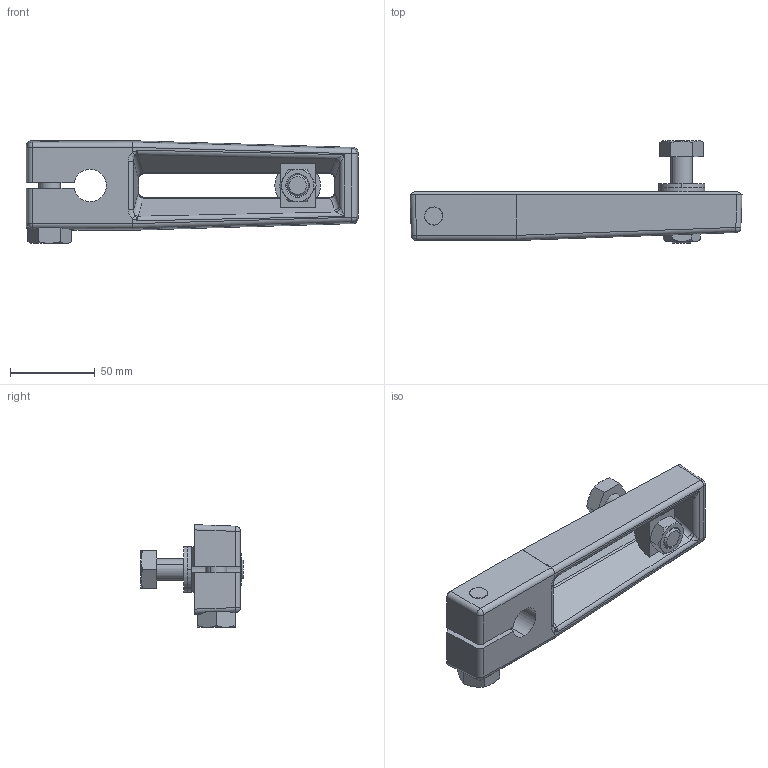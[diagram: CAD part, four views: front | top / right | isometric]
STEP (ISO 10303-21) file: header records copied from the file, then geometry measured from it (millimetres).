
FILE_DESCRIPTION (( 'STEP AP214' ), '1' );
FILE_NAME ('CrankArm_BECK_11^150.STEP', '2025-02-27T17:02:26', ( '' ), ( '' ), 'SwSTEP 2.0', 'SolidWorks 2022', '' );
FILE_SCHEMA (( 'AUTOMOTIVE_DESIGN' ));
Length unit declared in the file: inch
Products named in the file (6): 30-0306-56_30-0306-56; CrankArm_BECK_11^150; 30-0309-11_30-0309-11; 10-3491-02_Draft; 11-8060-02; 30-0313-03
Assembly tree (7 placements, depth 2):
  CrankArm_BECK_11^150
    10-3491-02_Draft
    11-8060-02
    30-0306-56_30-0306-56  x2
    30-0309-11_30-0309-11
    30-0313-03  x2
Bounding box: 195.39 x 60.05 x 60.34 mm (x, y, z)
Volume: 193911.5 mm3; surface area: 49156.4 mm2
Topology: 7 solids, 7 shells, 185 faces, 430 edges, 256 vertices
Faces by surface type: cylinder 62, plane 61, cone 36, bspline 22, sphere 4
Entity records: 6148 total; most frequent: CARTESIAN_POINT 2202, ORIENTED_EDGE 748, DIRECTION 661, EDGE_CURVE 374, AXIS2_PLACEMENT_3D 255, VERTEX_POINT 224, EDGE_LOOP 172, FACE_OUTER_BOUND 160
